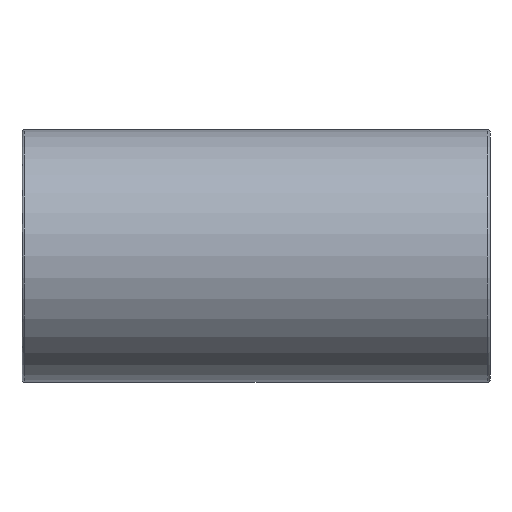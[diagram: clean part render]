
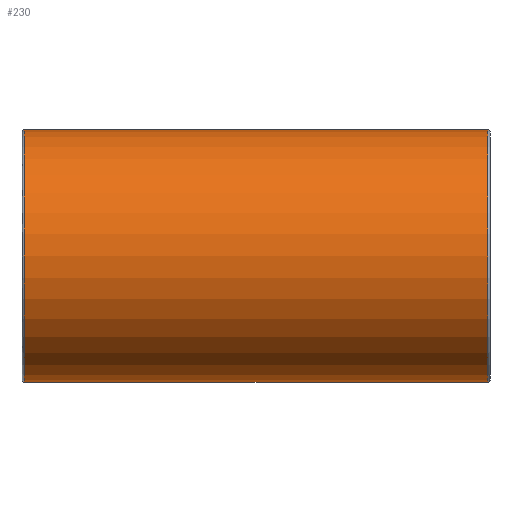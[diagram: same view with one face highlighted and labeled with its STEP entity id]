
A CAD part, front view. The second image highlights one B-rep face of the part: STEP entity #230.
In plain terms, the highlighted cylindrical face has radius 64.5 mm (diameter 129 mm), a full revolution.
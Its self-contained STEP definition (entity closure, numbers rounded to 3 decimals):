
#15=ELLIPSE('',#253,91.217,64.5);
#16=ELLIPSE('',#254,91.217,64.5);
#21=CYLINDRICAL_SURFACE('',#259,64.5);
#38=FACE_BOUND('',#85,.T.);
#39=FACE_BOUND('',#86,.T.);
#59=FACE_OUTER_BOUND('',#84,.T.);
#84=EDGE_LOOP('',(#187));
#85=EDGE_LOOP('',(#188,#189));
#86=EDGE_LOOP('',(#190));
#118=CIRCLE('',#260,64.5);
#119=CIRCLE('',#261,64.5);
#134=VERTEX_POINT('',#383);
#135=VERTEX_POINT('',#384);
#138=VERTEX_POINT('',#394);
#139=VERTEX_POINT('',#396);
#156=EDGE_CURVE('',#134,#135,#15,.T.);
#157=EDGE_CURVE('',#135,#134,#16,.T.);
#160=EDGE_CURVE('',#138,#138,#118,.T.);
#161=EDGE_CURVE('',#139,#139,#119,.T.);
#187=ORIENTED_EDGE('',*,*,#160,.F.);
#188=ORIENTED_EDGE('',*,*,#156,.T.);
#189=ORIENTED_EDGE('',*,*,#157,.T.);
#190=ORIENTED_EDGE('',*,*,#161,.F.);
#230=ADVANCED_FACE('',(#59,#38,#39),#21,.T.);
#253=AXIS2_PLACEMENT_3D('',#385,#304,#305);
#254=AXIS2_PLACEMENT_3D('',#386,#306,#307);
#259=AXIS2_PLACEMENT_3D('',#393,#316,#317);
#260=AXIS2_PLACEMENT_3D('',#395,#318,#319);
#261=AXIS2_PLACEMENT_3D('',#397,#320,#321);
#304=DIRECTION('center_axis',(0.707,-0.707,0.));
#305=DIRECTION('ref_axis',(-0.707,-0.707,0.));
#306=DIRECTION('center_axis',(-0.707,-0.707,0.));
#307=DIRECTION('ref_axis',(-0.707,0.707,0.));
#316=DIRECTION('center_axis',(1.,0.,0.));
#317=DIRECTION('ref_axis',(0.,1.,0.));
#318=DIRECTION('center_axis',(-1.,0.,0.));
#319=DIRECTION('ref_axis',(0.,-1.,0.));
#320=DIRECTION('center_axis',(1.,0.,0.));
#321=DIRECTION('ref_axis',(0.,-1.,0.));
#383=CARTESIAN_POINT('',(0.,0.,-64.5));
#384=CARTESIAN_POINT('',(0.,0.,64.5));
#385=CARTESIAN_POINT('Origin',(0.,0.,0.));
#386=CARTESIAN_POINT('Origin',(0.,0.,0.));
#393=CARTESIAN_POINT('Origin',(0.,0.,
0.));
#394=CARTESIAN_POINT('',(-118.4,64.5,0.));
#395=CARTESIAN_POINT('Origin',(-118.4,0.,0.));
#396=CARTESIAN_POINT('',(118.4,64.5,0.));
#397=CARTESIAN_POINT('Origin',(118.4,0.,0.));
